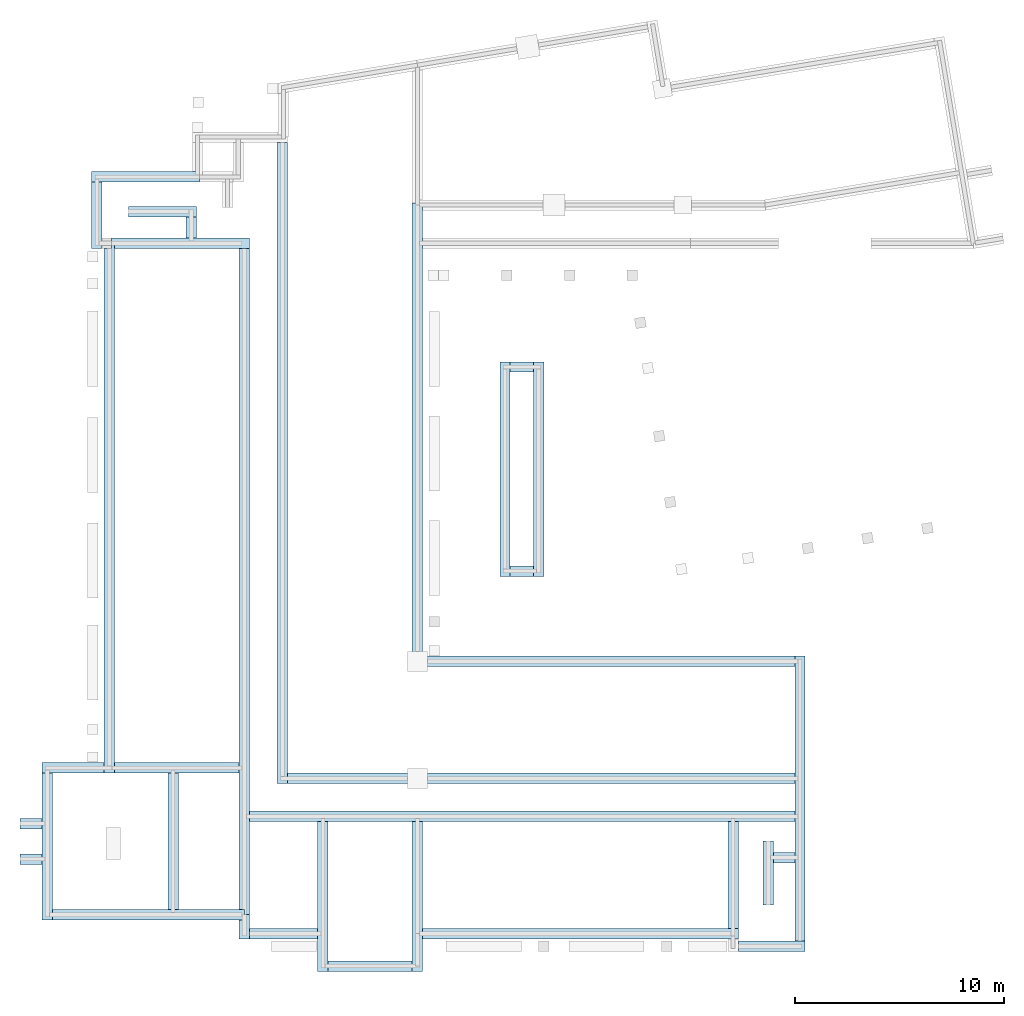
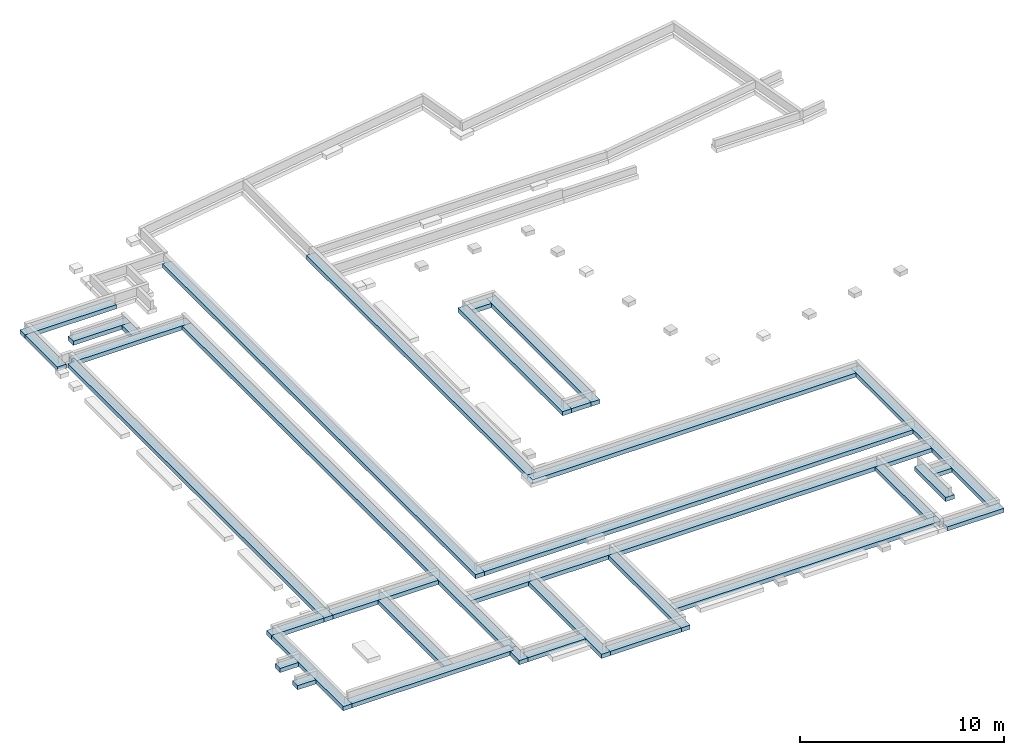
# One storey, part 1 of 5: 34 footings.
"""IFC4 building model written with IfcOpenShell, lengths in metres."""

from ifc_helpers import new_model, entity, si_unit, converted_unit, derived_unit, direction, frame, origin, place, context, subcontext, project, spatial, indexed_curve, outline, extrude, material, type_object, element, save


model = new_model("IFC4")

# Units and contexts
model_context = context("Model", 3, precision=1e-05, world=origin(), true_north=direction((6.123031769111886e-17, 1.0)))
body_context = subcontext(model_context, "Body", "Model", "MODEL_VIEW")
ifc_project = project(units=[si_unit("LENGTHUNIT", "METRE"), si_unit("AREAUNIT", "SQUARE_METRE"), si_unit("VOLUMEUNIT", "CUBIC_METRE"), converted_unit("PLANEANGLEUNIT", "DEGREE", entity("IfcRatioMeasure", 0.017453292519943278), si_unit("PLANEANGLEUNIT", "RADIAN"), dimensions=[0, 0, 0, 0, 0, 0, 0]), si_unit("MASSUNIT", "GRAM", prefix="KILO"), derived_unit("MASSDENSITYUNIT", [(si_unit("MASSUNIT", "GRAM", prefix="KILO"), 1), (si_unit("LENGTHUNIT", "METRE"), -3)]), derived_unit("MOMENTOFINERTIAUNIT", [(si_unit("LENGTHUNIT", "METRE"), 4)]), si_unit("TIMEUNIT", "SECOND"), si_unit("FREQUENCYUNIT", "HERTZ"), si_unit("THERMODYNAMICTEMPERATUREUNIT", "DEGREE_CELSIUS"), derived_unit("THERMALTRANSMITTANCEUNIT", [(si_unit("MASSUNIT", "GRAM", prefix="KILO"), 1), (si_unit("THERMODYNAMICTEMPERATUREUNIT", "KELVIN"), -1), (si_unit("TIMEUNIT", "SECOND"), -3)]), derived_unit("VOLUMETRICFLOWRATEUNIT", [(si_unit("LENGTHUNIT", "METRE"), 3), (si_unit("TIMEUNIT", "SECOND"), -1)]), derived_unit("MASSFLOWRATEUNIT", [(si_unit("MASSUNIT", "GRAM", prefix="KILO"), 1), (si_unit("TIMEUNIT", "SECOND"), -1)]), derived_unit("ROTATIONALFREQUENCYUNIT", [(si_unit("TIMEUNIT", "SECOND"), -1)]), si_unit("ELECTRICCURRENTUNIT", "AMPERE"), si_unit("ELECTRICVOLTAGEUNIT", "VOLT"), si_unit("POWERUNIT", "WATT"), si_unit("FORCEUNIT", "NEWTON", prefix="KILO"), si_unit("ILLUMINANCEUNIT", "LUX"), si_unit("LUMINOUSFLUXUNIT", "LUMEN"), si_unit("LUMINOUSINTENSITYUNIT", "CANDELA"), derived_unit("USERDEFINED", [(si_unit("MASSUNIT", "GRAM", prefix="KILO"), -1), (si_unit("LENGTHUNIT", "METRE"), -2), (si_unit("TIMEUNIT", "SECOND"), 3), (si_unit("LUMINOUSFLUXUNIT", "LUMEN"), 1)]), derived_unit("SOUNDPOWERUNIT", [(si_unit("MASSUNIT", "GRAM", prefix="KILO"), 1), (si_unit("LENGTHUNIT", "METRE"), 2), (si_unit("TIMEUNIT", "SECOND"), -3)]), derived_unit("SOUNDPRESSUREUNIT", [(si_unit("MASSUNIT", "GRAM", prefix="KILO"), 1), (si_unit("LENGTHUNIT", "METRE"), -1), (si_unit("TIMEUNIT", "SECOND"), -2)]), derived_unit("LINEARVELOCITYUNIT", [(si_unit("LENGTHUNIT", "METRE"), 1), (si_unit("TIMEUNIT", "SECOND"), -1)]), si_unit("PRESSUREUNIT", "PASCAL"), derived_unit("USERDEFINED", [(si_unit("LENGTHUNIT", "METRE"), -2), (si_unit("MASSUNIT", "GRAM", prefix="KILO"), 1), (si_unit("TIMEUNIT", "SECOND"), -2)]), derived_unit("LINEARFORCEUNIT", [(si_unit("MASSUNIT", "GRAM", prefix="KILO"), 1), (si_unit("LENGTHUNIT", "METRE"), 1), (si_unit("TIMEUNIT", "SECOND"), -2), (si_unit("LENGTHUNIT", "METRE"), -1)]), derived_unit("PLANARFORCEUNIT", [(si_unit("MASSUNIT", "GRAM", prefix="KILO"), 1), (si_unit("LENGTHUNIT", "METRE"), 1), (si_unit("TIMEUNIT", "SECOND"), -2), (si_unit("LENGTHUNIT", "METRE"), -2)])], contexts=[model_context])

# Site, building, storey
site_placement = place(None, origin())
site = spatial("IfcSite", under=ifc_project, at=site_placement, Name="Default", CompositionType="ELEMENT")
building_placement = place(site_placement, origin())
building = spatial("IfcBuilding", under=site, at=building_placement, CompositionType="ELEMENT")
storey_placement = place(building_placement, frame((0.0, 0.0, -0.88)))
storey = spatial("IfcBuildingStorey", under=building, at=storey_placement, Name="Arase inf soubassement", CompositionType="ELEMENT", Elevation=-0.88)

# Footings
ifc_material = material(Name="Maçonnerie - Béton", Category="Béton")
footing_type_1 = type_object("IfcFootingType", Name="Semelle filante:SF 50x25ht", PredefinedType="STRIP_FOOTING")
footing_1_placement = place(storey_placement, origin())
element("IfcFooting", 1, at=footing_1_placement, inside=storey, type_object=footing_type_1, material=ifc_material, Name="Semelle filante:SF 50x25ht", ObjectType="Semelle filante:SF 50x25ht", PredefinedType="STRIP_FOOTING", context=body_context, shape_type="SweptSolid", body=[
    extrude(outline(indexed_curve([(-2.1900000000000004, -0.24999999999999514), (-1.8399999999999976, -0.24999999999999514), (2.9700000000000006, -0.2500000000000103), (2.9700000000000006, 0.24999999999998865), (2.4700000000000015, 0.2499999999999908), (-2.1900000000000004, 0.25000000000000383), (-2.1900000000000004, 4.331468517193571e-15), (-2.1900000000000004, -0.24999999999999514)], self_intersect=False)), frame((-23.863450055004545, 13.869106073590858, 0.0), z_axis=(0.0, 0.0, 1.0), x_axis=(-1.0, 0.0, 0.0)), (0.0, 0.0, 1.0), 0.25),
])
footing_type_2 = type_object("IfcFootingType", Name="Semelle filante:SF 50x25ht", PredefinedType="STRIP_FOOTING")
footing_2_placement = place(storey_placement, origin())
element("IfcFooting", 2, at=footing_2_placement, inside=storey, type_object=footing_type_2, material=ifc_material, Name="Semelle filante:SF 50x25ht", ObjectType="Semelle filante:SF 50x25ht", PredefinedType="STRIP_FOOTING", context=body_context, shape_type="SweptSolid", body=[
    extrude(outline(indexed_curve([(-1.3720000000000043, -0.20000000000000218), (-0.8720000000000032, -0.20000000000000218), (1.8080000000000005, -0.2000000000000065), (1.8080000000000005, 0.29999999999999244), (-1.3719999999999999, 0.29999999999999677), (-1.3720000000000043, -0.20000000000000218)], self_intersect=False)), frame((-26.533450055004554, 11.811106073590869, 0.0), z_axis=(0.0, 0.0, 1.0), x_axis=(0.0, 1.0, 0.0)), (0.0, 0.0, 1.0), 0.25),
])
footing_type_3 = type_object("IfcFootingType", Name="Semelle filante:SF 50x25ht", PredefinedType="STRIP_FOOTING")
footing_3_placement = place(storey_placement, origin())
element("IfcFooting", 3, at=footing_3_placement, inside=storey, type_object=footing_type_3, material=ifc_material, Name="Semelle filante:SF 50x25ht", ObjectType="Semelle filante:SF 50x25ht", PredefinedType="STRIP_FOOTING", context=body_context, shape_type="SweptSolid", body=[
    extrude(outline(indexed_curve([(-0.2000000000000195, -11.236666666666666), (-0.05000000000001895, -11.236666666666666), (-0.05000000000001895, -10.986666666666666), (0.29999999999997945, -10.986666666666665), (0.3000000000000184, 13.608333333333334), (0.3000000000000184, 14.10833333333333), (-0.19999999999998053, 14.10833333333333), (-0.19999999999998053, 13.608333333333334), (-0.2000000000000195, -10.986666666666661), (-0.2000000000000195, -11.236666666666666)], self_intersect=False)), frame((-25.943450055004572, -0.5475605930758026, 0.0), z_axis=(0.0, 0.0, 1.0), x_axis=(-1.0, 0.0, 0.0)), (0.0, 0.0, 1.0), 0.25),
])
footing_type_4 = type_object("IfcFootingType", Name="Semelle filante:SF 50x25ht", PredefinedType="STRIP_FOOTING")
footing_4_placement = place(storey_placement, origin())
element("IfcFooting", 4, at=footing_4_placement, inside=storey, type_object=footing_type_4, material=ifc_material, Name="Semelle filante:SF 50x25ht", ObjectType="Semelle filante:SF 50x25ht", PredefinedType="STRIP_FOOTING", context=body_context, shape_type="SweptSolid", body=[
    extrude(outline(indexed_curve([(-1.2879999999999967, -0.1999999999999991), (-0.7879999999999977, -0.1999999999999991), (1.682000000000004, -0.1999999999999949), (1.6820000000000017, 0.30000000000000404), (-1.2879999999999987, 0.2999999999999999), (-1.2879999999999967, -0.1999999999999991)], self_intersect=False)), frame((-27.925450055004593, -14.455893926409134, 0.0)), (0.0, 0.0, 1.0), 0.25),
])
footing_type_5 = type_object("IfcFootingType", Name="Semelle filante:SF 50x25ht", PredefinedType="STRIP_FOOTING")
footing_5_placement = place(storey_placement, origin())
element("IfcFooting", 5, at=footing_5_placement, inside=storey, type_object=footing_type_5, material=ifc_material, Name="Semelle filante:SF 50x25ht", ObjectType="Semelle filante:SF 50x25ht", PredefinedType="STRIP_FOOTING", context=body_context, shape_type="SweptSolid", body=[
    extrude(outline(indexed_curve([(-3.286666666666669, -0.3333333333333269), (-2.7866666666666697, -0.3333333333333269), (3.733333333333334, -0.33333333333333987), (3.733333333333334, 0.1666666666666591), (1.5733333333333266, 0.16666666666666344), (1.0733333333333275, 0.16666666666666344), (-0.12666666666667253, 0.16666666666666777), (-0.6266666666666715, 0.16666666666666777), (-3.286666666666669, 0.1666666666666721), (-3.286666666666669, -0.3333333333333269)], self_intersect=False)), frame((-29.046783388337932, -18.389227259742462, 0.0), z_axis=(0.0, 0.0, 1.0), x_axis=(0.0, 1.0, 0.0)), (0.0, 0.0, 1.0), 0.25),
])
footing_type_6 = type_object("IfcFootingType", Name="Semelle filante:SF 50x25ht", PredefinedType="STRIP_FOOTING")
footing_6_placement = place(storey_placement, origin())
element("IfcFooting", 6, at=footing_6_placement, inside=storey, type_object=footing_type_6, material=ifc_material, Name="Semelle filante:SF 50x25ht", ObjectType="Semelle filante:SF 50x25ht", PredefinedType="STRIP_FOOTING", context=body_context, shape_type="SweptSolid", body=[
    extrude(outline(indexed_curve([(-0.055555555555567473, -2.853333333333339), (0.194444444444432, -2.8533333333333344), (0.194444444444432, -2.603333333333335), (0.19444444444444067, 0.3066666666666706), (0.194444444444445, 0.8066666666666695), (0.19444444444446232, 6.326666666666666), (-0.30555555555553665, 6.326666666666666), (-0.30555555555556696, -2.6033333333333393), (-0.30555555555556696, -2.853333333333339), (-0.055555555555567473, -2.853333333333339)], self_intersect=False)), frame((-22.38678338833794, -21.37033837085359, 0.0), z_axis=(0.0, 0.0, 1.0), x_axis=(0.0, 1.0, 0.0)), (0.0, 0.0, 1.0), 0.25),
])
footing_type_7 = type_object("IfcFootingType", Name="Semelle filante:SF 50x25ht", PredefinedType="STRIP_FOOTING")
footing_7_placement = place(storey_placement, origin())
element("IfcFooting", 7, at=footing_7_placement, inside=storey, type_object=footing_type_7, material=ifc_material, Name="Semelle filante:SF 50x25ht", ObjectType="Semelle filante:SF 50x25ht", PredefinedType="STRIP_FOOTING", context=body_context, shape_type="SweptSolid", body=[
    extrude(outline(indexed_curve([(-0.21428571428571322, -0.4971428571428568), (0.03571428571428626, -0.4971428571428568), (0.03571428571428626, -0.24714285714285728), (0.28571428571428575, -0.24714285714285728), (0.28571428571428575, 0.6628571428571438), (-0.21428571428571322, 0.6628571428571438), (-0.21428571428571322, 0.1628571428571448), (-0.21428571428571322, -0.4971428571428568)], self_intersect=False)), frame((-19.497735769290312, -21.923036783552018, 0.0), z_axis=(0.0, 0.0, 1.0), x_axis=(-1.0, 0.0, 0.0)), (0.0, 0.0, 1.0), 0.25),
])
footing_type_8 = type_object("IfcFootingType", Name="Semelle filante:SF 50x25ht", PredefinedType="STRIP_FOOTING")
footing_8_placement = place(storey_placement, origin())
element("IfcFooting", 8, at=footing_8_placement, inside=storey, type_object=footing_type_8, material=ifc_material, Name="Semelle filante:SF 50x25ht", ObjectType="Semelle filante:SF 50x25ht", PredefinedType="STRIP_FOOTING", context=body_context, shape_type="SweptSolid", body=[
    extrude(outline(indexed_curve([(-1.6300000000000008, -0.25000000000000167), (1.6300000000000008, -0.25000000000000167), (1.6299999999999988, 0.2499999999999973), (-1.630000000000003, 0.2499999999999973), (-1.6300000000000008, -0.25000000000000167)], self_intersect=False)), frame((-17.6534500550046, -22.33589392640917, 0.0), z_axis=(0.0, 0.0, 1.0), x_axis=(-1.0, 0.0, 0.0)), (0.0, 0.0, 1.0), 0.25),
])
footing_type_9 = type_object("IfcFootingType", Name="Semelle filante:SF 50x25ht", PredefinedType="STRIP_FOOTING")
footing_9_placement = place(storey_placement, origin())
element("IfcFooting", 9, at=footing_9_placement, inside=storey, type_object=footing_type_9, material=ifc_material, Name="Semelle filante:SF 50x25ht", ObjectType="Semelle filante:SF 50x25ht", PredefinedType="STRIP_FOOTING", context=body_context, shape_type="SweptSolid", body=[
    extrude(outline(indexed_curve([(-9.900000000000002, -0.2500000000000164), (4.700000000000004, -0.2500000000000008), (5.200000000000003, -0.2499999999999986), (5.2, 0.25000000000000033), (4.699999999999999, 0.2499999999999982), (-9.900000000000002, 0.2499999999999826), (-9.900000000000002, -0.2500000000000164)], self_intersect=False)), frame((-1.103450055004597, -22.335893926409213, 0.0)), (0.0, 0.0, 1.0), 0.25),
])
footing_type_10 = type_object("IfcFootingType", Name="Semelle filante:SF 50x25ht", PredefinedType="STRIP_FOOTING")
footing_10_placement = place(storey_placement, origin())
element("IfcFooting", 10, at=footing_10_placement, inside=storey, type_object=footing_type_10, material=ifc_material, Name="Semelle filante:SF 50x25ht", ObjectType="Semelle filante:SF 50x25ht", PredefinedType="STRIP_FOOTING", context=body_context, shape_type="SweptSolid", body=[
    extrude(outline(indexed_curve([(-1.3800000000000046, -0.19999999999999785), (-0.8799999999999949, -0.19999999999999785), (1.8200000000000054, -0.2000000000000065), (1.8200000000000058, 0.29999999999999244), (-1.3800000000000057, 0.3000000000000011), (-1.3800000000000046, -0.19999999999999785)], self_intersect=False)), frame((5.91654994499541, -22.88589392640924, 0.0), z_axis=(0.0, 0.0, 1.0), x_axis=(-1.0, 0.0, 0.0)), (0.0, 0.0, 1.0), 0.25),
])
footing_type_11 = type_object("IfcFootingType", Name="Semelle filante:SF 50x25ht", PredefinedType="STRIP_FOOTING")
footing_11_placement = place(storey_placement, origin())
element("IfcFooting", 11, at=footing_11_placement, inside=storey, type_object=footing_type_11, material=ifc_material, Name="Semelle filante:SF 50x25ht", ObjectType="Semelle filante:SF 50x25ht", PredefinedType="STRIP_FOOTING", context=body_context, shape_type="SweptSolid", body=[
    extrude(outline(indexed_curve([(-6.734545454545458, -0.09090909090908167), (-6.234545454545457, -0.09090909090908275), (-1.1345454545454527, -0.09090909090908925), (-0.6345454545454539, -0.09090909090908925), (0.6854545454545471, -0.09090909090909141), (1.185454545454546, -0.0909090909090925), (2.6554545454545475, -0.09090909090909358), (3.155454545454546, -0.09090909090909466), (6.895454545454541, -0.09090909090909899), (6.89545454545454, 0.40909090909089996), (-6.734545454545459, 0.4090909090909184), (-6.734545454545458, -0.09090909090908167)], self_intersect=False)), frame((6.887459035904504, -15.790439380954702, 0.0), z_axis=(0.0, 0.0, 1.0), x_axis=(0.0, -1.0, 0.0)), (0.0, 0.0, 1.0), 0.25),
])
footing_type_12 = type_object("IfcFootingType", Name="Semelle filante:SF 50x25ht", PredefinedType="STRIP_FOOTING")
footing_12_placement = place(storey_placement, origin())
element("IfcFooting", 12, at=footing_12_placement, inside=storey, type_object=footing_type_12, material=ifc_material, Name="Semelle filante:SF 50x25ht", ObjectType="Semelle filante:SF 50x25ht", PredefinedType="STRIP_FOOTING", context=body_context, shape_type="SweptSolid", body=[
    extrude(outline(indexed_curve([(-7.419999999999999, -0.29999999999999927), (10.88, -0.29999999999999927), (10.880000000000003, 0.20000000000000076), (-6.920000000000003, 0.2000000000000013), (-7.420000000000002, 0.20000000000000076), (-7.419999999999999, -0.29999999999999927)], self_intersect=False)), frame((-4.08345005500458, -9.25589392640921, 0.0)), (0.0, 0.0, 1.0), 0.25),
])
footing_type_13 = type_object("IfcFootingType", Name="Semelle filante:SF 50x25ht", PredefinedType="STRIP_FOOTING")
footing_13_placement = place(storey_placement, origin())
element("IfcFooting", 13, at=footing_13_placement, inside=storey, type_object=footing_type_13, material=ifc_material, Name="Semelle filante:SF 50x25ht", ObjectType="Semelle filante:SF 50x25ht", PredefinedType="STRIP_FOOTING", context=body_context, shape_type="SweptSolid", body=[
    extrude(outline(indexed_curve([(-5.944999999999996, -0.3437500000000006), (15.729999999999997, -0.3437500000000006), (15.729999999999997, 0.15624999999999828), (-3.765000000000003, 0.15624999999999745), (-4.2650000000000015, 0.15624999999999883), (-5.594999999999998, 0.15624999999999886), (-5.944999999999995, 0.15624999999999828), (-5.944999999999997, -0.0937500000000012), (-5.944999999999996, -0.3437500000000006)], self_intersect=False)), frame((-11.159700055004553, 6.6741060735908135, 0.0), z_axis=(0.0, 0.0, 1.0), x_axis=(0.0, -1.0, 0.0)), (0.0, 0.0, 1.0), 0.25),
])
footing_type_14 = type_object("IfcFootingType", Name="Semelle filante:SF 50x25ht", PredefinedType="STRIP_FOOTING")
footing_14_placement = place(storey_placement, origin())
element("IfcFooting", 14, at=footing_14_placement, inside=storey, type_object=footing_type_14, material=ifc_material, Name="Semelle filante:SF 50x25ht", ObjectType="Semelle filante:SF 50x25ht", PredefinedType="STRIP_FOOTING", context=body_context, shape_type="SweptSolid", body=[
    extrude(outline(indexed_curve([(-5.13, -0.16666666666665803), (-4.630000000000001, -0.1666666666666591), (4.63, -0.16666666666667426), (5.129999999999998, -0.16666666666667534), (5.129999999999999, 0.3333333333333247), (-5.129999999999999, 0.33333333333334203), (-5.13, -0.16666666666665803)], self_intersect=False)), frame((-5.536783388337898, -0.105893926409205, 0.0), z_axis=(0.0, 0.0, 1.0), x_axis=(0.0, -1.0, 0.0)), (0.0, 0.0, 1.0), 0.25),
])
footing_type_15 = type_object("IfcFootingType", Name="Semelle filante:SF 50x25ht", PredefinedType="STRIP_FOOTING")
footing_15_placement = place(storey_placement, origin())
element("IfcFooting", 15, at=footing_15_placement, inside=storey, type_object=footing_type_15, material=ifc_material, Name="Semelle filante:SF 50x25ht", ObjectType="Semelle filante:SF 50x25ht", PredefinedType="STRIP_FOOTING", context=body_context, shape_type="SweptSolid", body=[
    extrude(outline(indexed_curve([(-5.129999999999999, -0.16666666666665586), (-4.63, -0.16666666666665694), (4.63, -0.16666666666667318), (5.129999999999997, -0.16666666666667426), (5.13, 0.33333333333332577), (-5.129999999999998, 0.3333333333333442), (-5.129999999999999, -0.16666666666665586)], self_intersect=False)), frame((-6.980116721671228, -0.10589392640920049, 0.0), z_axis=(0.0, 0.0, 1.0), x_axis=(0.0, 1.0, 0.0)), (0.0, 0.0, 1.0), 0.25),
])
footing_type_16 = type_object("IfcFootingType", Name="Semelle filante:SF 50x25ht", PredefinedType="STRIP_FOOTING")
footing_16_placement = place(storey_placement, origin())
element("IfcFooting", 16, at=footing_16_placement, inside=storey, type_object=footing_type_16, material=ifc_material, Name="Semelle filante:SF 50x25ht", ObjectType="Semelle filante:SF 50x25ht", PredefinedType="STRIP_FOOTING", context=body_context, shape_type="SweptSolid", body=[
    extrude(outline(indexed_curve([(-0.5549999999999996, -0.25), (0.5549999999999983, -0.25), (0.5549999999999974, 0.25), (-0.5550000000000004, 0.24999999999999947), (-0.5549999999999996, -0.25)], self_intersect=False)), frame((-6.258450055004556, 4.774106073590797, 0.0), z_axis=(0.0, 0.0, 1.0), x_axis=(-1.0, 0.0, 0.0)), (0.0, 0.0, 1.0), 0.25),
])
footing_type_17 = type_object("IfcFootingType", Name="Semelle filante:SF 50x25ht", PredefinedType="STRIP_FOOTING")
footing_17_placement = place(storey_placement, origin())
element("IfcFooting", 17, at=footing_17_placement, inside=storey, type_object=footing_type_17, material=ifc_material, Name="Semelle filante:SF 50x25ht", ObjectType="Semelle filante:SF 50x25ht", PredefinedType="STRIP_FOOTING", context=body_context, shape_type="SweptSolid", body=[
    extrude(outline(indexed_curve([(-0.5549999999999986, -0.25000000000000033), (0.5549999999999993, -0.2500000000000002), (0.5549999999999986, 0.24999999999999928), (-0.5549999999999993, 0.2499999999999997), (-0.5549999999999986, -0.25000000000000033)], self_intersect=False)), frame((-6.258450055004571, -4.985893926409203, 0.0), z_axis=(0.0, 0.0, 1.0), x_axis=(-1.0, 0.0, 0.0)), (0.0, 0.0, 1.0), 0.25),
])
footing_type_18 = type_object("IfcFootingType", Name="Semelle filante:SF 50x25ht", PredefinedType="STRIP_FOOTING")
footing_18_placement = place(storey_placement, origin())
element("IfcFooting", 18, at=footing_18_placement, inside=storey, type_object=footing_type_18, material=ifc_material, Name="Semelle filante:SF 50x25ht", ObjectType="Semelle filante:SF 50x25ht", PredefinedType="STRIP_FOOTING", context=body_context, shape_type="SweptSolid", body=[
    extrude(outline(indexed_curve([(-1.3959999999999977, -0.29999999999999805), (1.8439999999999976, -0.29999999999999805), (1.8439999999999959, 0.20000000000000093), (-0.896000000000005, 0.20000000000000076), (-1.3959999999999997, 0.20000000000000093), (-1.3959999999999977, -0.29999999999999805)], self_intersect=False)), frame((-23.219450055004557, 12.159106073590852, 0.0), z_axis=(0.0, 0.0, 1.0), x_axis=(-1.0, 0.0, 0.0)), (0.0, 0.0, 1.0), 0.25),
])
footing_type_19 = type_object("IfcFootingType", Name="Semelle filante:SF 50x25ht", PredefinedType="STRIP_FOOTING")
footing_19_placement = place(storey_placement, origin())
element("IfcFooting", 19, at=footing_19_placement, inside=storey, type_object=footing_type_19, material=ifc_material, Name="Semelle filante:SF 50x25ht", ObjectType="Semelle filante:SF 50x25ht", PredefinedType="STRIP_FOOTING", context=body_context, shape_type="SweptSolid", body=[
    extrude(outline(indexed_curve([(-0.5099999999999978, -0.24999999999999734), (0.5099999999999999, -0.24999999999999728), (0.5099999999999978, 0.25000000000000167), (-0.5099999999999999, 0.2500000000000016), (-0.5099999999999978, -0.24999999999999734)], self_intersect=False)), frame((-22.073450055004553, 11.44910607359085, 0.0), z_axis=(0.0, 0.0, 1.0), x_axis=(0.0, 1.0, 0.0)), (0.0, 0.0, 1.0), 0.25),
])
footing_type_20 = type_object("IfcFootingType", Name="Semelle filante:SF 50x25ht", PredefinedType="STRIP_FOOTING")
footing_20_placement = place(storey_placement, origin())
element("IfcFooting", 20, at=footing_20_placement, inside=storey, type_object=footing_type_20, material=ifc_material, Name="Semelle filante:SF 50x25ht", ObjectType="Semelle filante:SF 50x25ht", PredefinedType="STRIP_FOOTING", context=body_context, shape_type="SweptSolid", body=[
    extrude(outline(indexed_curve([(-0.22222222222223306, -3.0299999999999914), (0.02777777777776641, -3.0299999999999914), (0.02777777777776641, -2.8799999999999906), (0.2777777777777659, -2.8799999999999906), (0.27777777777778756, 3.0800000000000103), (0.2777777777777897, 3.5799999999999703), (-0.22222222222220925, 3.5799999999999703), (-0.2222222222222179, 1.0400000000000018), (-0.22222222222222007, 0.5400000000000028), (-0.22222222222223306, -3.0299999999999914)], self_intersect=False)), frame((-22.86345005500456, 10.71688385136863, 0.0), z_axis=(0.0, 0.0, 1.0), x_axis=(0.0, -1.0, 0.0)), (0.0, 0.0, 1.0), 0.25),
])
footing_type_21 = type_object("IfcFootingType", Name="Semelle filante:SF 50x25ht", PredefinedType="STRIP_FOOTING")
footing_21_placement = place(storey_placement, origin())
element("IfcFooting", 21, at=footing_21_placement, inside=storey, type_object=footing_type_21, material=ifc_material, Name="Semelle filante:SF 50x25ht", ObjectType="Semelle filante:SF 50x25ht", PredefinedType="STRIP_FOOTING", context=body_context, shape_type="SweptSolid", body=[
    extrude(outline(indexed_curve([(8.516999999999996, -1.2994405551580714e-14), (8.767, -1.2994405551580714e-14), (8.767, 0.24999999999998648), (4.317000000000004, 0.24999999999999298), (3.817000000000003, 0.24999999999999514), (-23.098000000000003, 0.25000000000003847), (-23.098000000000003, -0.2499999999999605), (1.4969999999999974, -0.24999999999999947), (1.9969999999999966, -0.24999999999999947), (8.516999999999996, -0.2500000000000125), (8.516999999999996, -1.2994405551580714e-14)], self_intersect=False)), frame((-19.53345005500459, -12.65889392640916, 0.0), z_axis=(0.0, 0.0, 1.0), x_axis=(0.0, -1.0, 0.0)), (0.0, 0.0, 1.0), 0.25),
])
footing_type_22 = type_object("IfcFootingType", Name="Semelle filante:SF 50x25ht", PredefinedType="STRIP_FOOTING")
footing_22_placement = place(storey_placement, origin())
element("IfcFooting", 22, at=footing_22_placement, inside=storey, type_object=footing_type_22, material=ifc_material, Name="Semelle filante:SF 50x25ht", ObjectType="Semelle filante:SF 50x25ht", PredefinedType="STRIP_FOOTING", context=body_context, shape_type="SweptSolid", body=[
    extrude(outline(indexed_curve([(-12.370000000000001, -0.19999999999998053), (-11.870000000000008, -0.19999999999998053), (18.305, -0.20000000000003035), (18.305000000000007, 0.2999999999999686), (-12.370000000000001, 0.3000000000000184), (-12.370000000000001, -0.19999999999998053)], self_intersect=False)), frame((-17.663450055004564, -2.7858939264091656, 0.0), z_axis=(0.0, 0.0, 1.0), x_axis=(0.0, 1.0, 0.0)), (0.0, 0.0, 1.0), 0.25),
])
footing_type_23 = type_object("IfcFootingType", Name="Semelle filante:SF 50x25ht", PredefinedType="STRIP_FOOTING")
footing_23_placement = place(storey_placement, origin())
element("IfcFooting", 23, at=footing_23_placement, inside=storey, type_object=footing_type_23, material=ifc_material, Name="Semelle filante:SF 50x25ht", ObjectType="Semelle filante:SF 50x25ht", PredefinedType="STRIP_FOOTING", context=body_context, shape_type="SweptSolid", body=[
    extrude(outline(indexed_curve([(-3.040000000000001, -0.33333333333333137), (2.92, -0.33333333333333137), (2.9199999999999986, 0.16666666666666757), (0.3700000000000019, 0.16666666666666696), (-0.12999999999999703, 0.1666666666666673), (-3.0399999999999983, 0.16666666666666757), (-3.040000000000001, -0.33333333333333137)], self_intersect=False)), frame((-22.823450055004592, -14.489227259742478, 0.0), z_axis=(0.0, 0.0, 1.0), x_axis=(-1.0, 0.0, 0.0)), (0.0, 0.0, 1.0), 0.25),
])
footing_type_24 = type_object("IfcFootingType", Name="Semelle filante:SF 50x25ht", PredefinedType="STRIP_FOOTING")
footing_24_placement = place(storey_placement, origin())
element("IfcFooting", 24, at=footing_24_placement, inside=storey, type_object=footing_type_24, material=ifc_material, Name="Semelle filante:SF 50x25ht", ObjectType="Semelle filante:SF 50x25ht", PredefinedType="STRIP_FOOTING", context=body_context, shape_type="SweptSolid", body=[
    extrude(outline(indexed_curve([(-3.2600000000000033, -0.2500000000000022), (3.2600000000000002, -0.25000000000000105), (3.2600000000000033, 0.2499999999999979), (-3.2600000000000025, 0.24999999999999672), (-3.2600000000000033, -0.2500000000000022)], self_intersect=False)), frame((-22.9434500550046, -17.915893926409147, 0.0), z_axis=(0.0, 0.0, 1.0), x_axis=(0.0, -1.0, 0.0)), (0.0, 0.0, 1.0), 0.25),
])
footing_type_25 = type_object("IfcFootingType", Name="Semelle filante:SF 50x25ht", PredefinedType="STRIP_FOOTING")
footing_25_placement = place(storey_placement, origin())
element("IfcFooting", 25, at=footing_25_placement, inside=storey, type_object=footing_type_25, material=ifc_material, Name="Semelle filante:SF 50x25ht", ObjectType="Semelle filante:SF 50x25ht", PredefinedType="STRIP_FOOTING", context=body_context, shape_type="SweptSolid", body=[
    extrude(outline(indexed_curve([(-13.929999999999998, -0.40000000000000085), (12.150000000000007, -0.40000000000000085), (12.150000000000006, 0.09999999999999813), (8.890000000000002, 0.09999999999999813), (8.390000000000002, 0.09999999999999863), (4.370000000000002, 0.09999999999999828), (3.870000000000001, 0.09999999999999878), (-10.729999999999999, 0.09999999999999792), (-11.230000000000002, 0.09999999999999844), (-13.93, 0.09999999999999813), (-13.929999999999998, -0.40000000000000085)], self_intersect=False)), frame((-7.133450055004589, -16.8758939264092, 0.0), z_axis=(0.0, 0.0, 1.0), x_axis=(-1.0, 0.0, 0.0)), (0.0, 0.0, 1.0), 0.25),
])
footing_type_26 = type_object("IfcFootingType", Name="Semelle filante:SF 50x25ht", PredefinedType="STRIP_FOOTING")
footing_26_placement = place(storey_placement, origin())
element("IfcFooting", 26, at=footing_26_placement, inside=storey, type_object=footing_type_26, material=ifc_material, Name="Semelle filante:SF 50x25ht", ObjectType="Semelle filante:SF 50x25ht", PredefinedType="STRIP_FOOTING", context=body_context, shape_type="SweptSolid", body=[
    extrude(outline(indexed_curve([(-12.129999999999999, -0.2499999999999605), (12.129999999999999, -0.25000000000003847), (12.129999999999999, 0.2499999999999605), (-12.129999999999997, 0.25000000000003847), (-12.129999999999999, -0.2499999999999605)], self_intersect=False)), frame((-5.333450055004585, -14.905893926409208, 0.0), z_axis=(0.0, 0.0, 1.0), x_axis=(-1.0, 0.0, 0.0)), (0.0, 0.0, 1.0), 0.25),
])
footing_type_27 = type_object("IfcFootingType", Name="Semelle filante:SF 50x25ht", PredefinedType="STRIP_FOOTING")
footing_27_placement = place(storey_placement, origin())
element("IfcFooting", 27, at=footing_27_placement, inside=storey, type_object=footing_type_27, material=ifc_material, Name="Semelle filante:SF 50x25ht", ObjectType="Semelle filante:SF 50x25ht", PredefinedType="STRIP_FOOTING", context=body_context, shape_type="SweptSolid", body=[
    extrude(outline(indexed_curve([(-4.528571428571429, -0.21428571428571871), (0.5814285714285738, -0.2142857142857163), (1.081428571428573, -0.21428571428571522), (2.6314285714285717, -0.21428571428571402), (2.6314285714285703, 0.2857142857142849), (2.1314285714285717, 0.28571428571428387), (-4.5285714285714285, 0.28571428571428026), (-4.528571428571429, -0.21428571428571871)], self_intersect=False)), frame((-15.80916434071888, -21.504465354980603, 0.0), z_axis=(0.0, 0.0, 1.0), x_axis=(0.0, -1.0, 0.0)), (0.0, 0.0, 1.0), 0.25),
])
footing_type_28 = type_object("IfcFootingType", Name="Semelle filante:SF 50x25ht", PredefinedType="STRIP_FOOTING")
footing_28_placement = place(storey_placement, origin())
element("IfcFooting", 28, at=footing_28_placement, inside=storey, type_object=footing_type_28, material=ifc_material, Name="Semelle filante:SF 50x25ht", ObjectType="Semelle filante:SF 50x25ht", PredefinedType="STRIP_FOOTING", context=body_context, shape_type="SweptSolid", body=[
    extrude(outline(indexed_curve([(-2.631428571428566, -0.21428571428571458), (-1.0814285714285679, -0.21428571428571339), (-0.581428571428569, -0.2142857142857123), (4.52857142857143, -0.21428571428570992), (4.528571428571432, 0.28571428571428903), (-2.131428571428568, 0.2857142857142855), (-2.6314285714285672, 0.28571428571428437), (-2.631428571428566, -0.21428571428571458)], self_intersect=False)), frame((-11.21773576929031, -21.504465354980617, 0.0), z_axis=(0.0, 0.0, 1.0), x_axis=(0.0, 1.0, 0.0)), (0.0, 0.0, 1.0), 0.25),
])
footing_type_29 = type_object("IfcFootingType", Name="Semelle filante:SF 50x25ht", PredefinedType="STRIP_FOOTING")
footing_29_placement = place(storey_placement, origin())
element("IfcFooting", 29, at=footing_29_placement, inside=storey, type_object=footing_type_29, material=ifc_material, Name="Semelle filante:SF 50x25ht", ObjectType="Semelle filante:SF 50x25ht", PredefinedType="STRIP_FOOTING", context=body_context, shape_type="SweptSolid", body=[
    extrude(outline(indexed_curve([(-2.0099999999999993, -0.25000000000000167), (2.0100000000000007, -0.2500000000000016), (2.0099999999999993, 0.24999999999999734), (-2.0100000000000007, 0.24999999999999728), (-2.0099999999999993, -0.25000000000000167)], self_intersect=False)), frame((-13.5134500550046, -23.885893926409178, 0.0)), (0.0, 0.0, 1.0), 0.25),
])
footing_type_30 = type_object("IfcFootingType", Name="Semelle filante:SF 50x25ht", PredefinedType="STRIP_FOOTING")
footing_30_placement = place(storey_placement, origin())
element("IfcFooting", 30, at=footing_30_placement, inside=storey, type_object=footing_type_30, material=ifc_material, Name="Semelle filante:SF 50x25ht", ObjectType="Semelle filante:SF 50x25ht", PredefinedType="STRIP_FOOTING", context=body_context, shape_type="SweptSolid", body=[
    extrude(outline(indexed_curve([(-2.5549999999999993, -0.2500000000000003), (2.555, -0.2500000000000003), (2.5549999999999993, 0.24999999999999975), (-2.555, 0.24999999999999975), (-2.5549999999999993, -0.2500000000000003)], self_intersect=False)), frame((3.8465499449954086, -19.530893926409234, 0.0), z_axis=(0.0, 0.0, 1.0), x_axis=(0.0, -1.0, 0.0)), (0.0, 0.0, 1.0), 0.25),
])
footing_type_31 = type_object("IfcFootingType", Name="Semelle filante:SF 50x25ht", PredefinedType="STRIP_FOOTING")
footing_31_placement = place(storey_placement, origin())
element("IfcFooting", 31, at=footing_31_placement, inside=storey, type_object=footing_type_31, material=ifc_material, Name="Semelle filante:SF 50x25ht", ObjectType="Semelle filante:SF 50x25ht", PredefinedType="STRIP_FOOTING", context=body_context, shape_type="SweptSolid", body=[
    extrude(outline(indexed_curve([(-1.2898537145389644, -0.33333333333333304), (1.780146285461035, -0.33333333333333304), (1.7801462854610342, 0.16666666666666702), (-0.24029257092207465, 0.16666666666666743), (-0.7402925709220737, 0.1666666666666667), (-1.289853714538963, 0.16666666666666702), (-1.2898537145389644, -0.33333333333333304)], self_intersect=False)), frame((5.609883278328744, -19.186186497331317, 0.0), z_axis=(0.0, 0.0, 1.0), x_axis=(0.0, -1.0, 0.0)), (0.0, 0.0, 1.0), 0.25),
])
footing_type_32 = type_object("IfcFootingType", Name="Semelle filante:SF 50x25ht", PredefinedType="STRIP_FOOTING")
footing_32_placement = place(storey_placement, origin())
element("IfcFooting", 32, at=footing_32_placement, inside=storey, type_object=footing_type_32, material=ifc_material, Name="Semelle filante:SF 50x25ht", ObjectType="Semelle filante:SF 50x25ht", PredefinedType="STRIP_FOOTING", context=body_context, shape_type="SweptSolid", body=[
    extrude(outline(indexed_curve([(-0.5099999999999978, -0.2499999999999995), (0.5099999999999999, -0.24999999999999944), (0.5099999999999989, 0.2499999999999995), (-0.5099999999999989, 0.24999999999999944), (-0.5099999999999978, -0.2499999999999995)], self_intersect=False)), frame((6.286549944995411, -18.695893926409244, 0.0), z_axis=(0.0, 0.0, 1.0), x_axis=(-1.0, 0.0, 0.0)), (0.0, 0.0, 1.0), 0.25),
])
footing_type_33 = type_object("IfcFootingType", Name="Semelle filante:SF 50x25ht", PredefinedType="STRIP_FOOTING")
footing_33_placement = place(storey_placement, origin())
element("IfcFooting", 33, at=footing_33_placement, inside=storey, type_object=footing_type_33, material=ifc_material, Name="Semelle filante:SF 50x25ht", ObjectType="Semelle filante:SF 50x25ht", PredefinedType="STRIP_FOOTING", context=body_context, shape_type="SweptSolid", body=[
    extrude(outline(indexed_curve([(-0.5249999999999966, -0.24999999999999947), (0.5250000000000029, -0.24999999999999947), (0.5250000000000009, 0.24999999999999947), (-0.5249999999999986, 0.24999999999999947), (-0.5249999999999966, -0.24999999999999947)], self_intersect=False)), frame((-29.73845005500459, -17.06589392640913, 0.0), z_axis=(0.0, 0.0, 1.0), x_axis=(-1.0, 0.0, 0.0)), (0.0, 0.0, 1.0), 0.25),
])
footing_type_34 = type_object("IfcFootingType", Name="Semelle filante:SF 50x25ht", PredefinedType="STRIP_FOOTING")
footing_34_placement = place(storey_placement, origin())
element("IfcFooting", 34, at=footing_34_placement, inside=storey, type_object=footing_type_34, material=ifc_material, Name="Semelle filante:SF 50x25ht", ObjectType="Semelle filante:SF 50x25ht", PredefinedType="STRIP_FOOTING", context=body_context, shape_type="SweptSolid", body=[
    extrude(outline(indexed_curve([(-0.5250000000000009, -0.2499999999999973), (0.5249999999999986, -0.2499999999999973), (0.5249999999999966, 0.25000000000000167), (-0.5250000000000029, 0.25000000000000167), (-0.5250000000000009, -0.2499999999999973)], self_intersect=False)), frame((-29.738450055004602, -18.765893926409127, 0.0), z_axis=(0.0, 0.0, 1.0), x_axis=(-1.0, 0.0, 0.0)), (0.0, 0.0, 1.0), 0.25),
])

save(model, "model.ifc")
